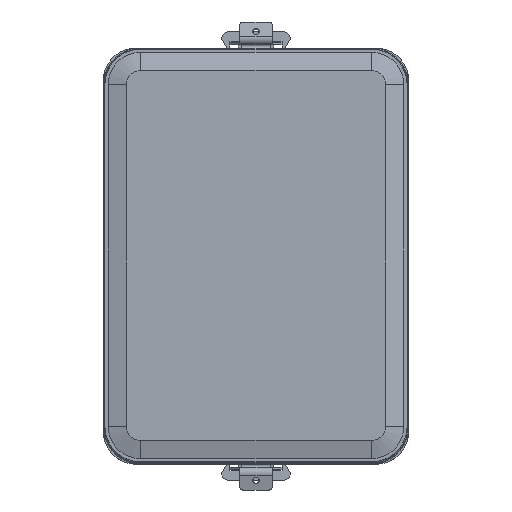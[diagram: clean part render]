
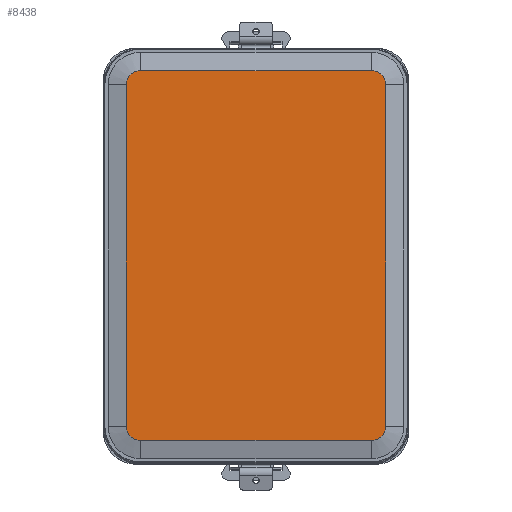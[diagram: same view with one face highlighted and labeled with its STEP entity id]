
A CAD part, top view. The second image highlights one B-rep face of the part: STEP entity #8438.
In plain terms, the highlighted planar face has unit normal (0, 0, 1).
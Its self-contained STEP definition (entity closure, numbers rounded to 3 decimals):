
#8438=ADVANCED_FACE('',(#15881),#15883,.T.);
#15881=FACE_BOUND('',#15882,.T.);
#15882=EDGE_LOOP('',(#28518,#28519,#28520,#28521,#28522,#28523,#28524,#28525));
#15883=PLANE('',#15884);
#15884=AXIS2_PLACEMENT_3D('',#15885,#15886,#15887);
#15885=CARTESIAN_POINT('',(0.,0.,127.5));
#15886=DIRECTION('',(0.,0.,1.));
#15887=DIRECTION('',(1.,0.,0.));
#28518=ORIENTED_EDGE('',*,*,#30956,.T.);
#28519=ORIENTED_EDGE('',*,*,#30954,.T.);
#28520=ORIENTED_EDGE('',*,*,#30952,.T.);
#28521=ORIENTED_EDGE('',*,*,#30950,.T.);
#28522=ORIENTED_EDGE('',*,*,#30948,.T.);
#28523=ORIENTED_EDGE('',*,*,#30946,.T.);
#28524=ORIENTED_EDGE('',*,*,#30944,.T.);
#28525=ORIENTED_EDGE('',*,*,#30941,.T.);
#30941=EDGE_CURVE('',#34775,#34776,#34777,.F.);
#30944=EDGE_CURVE('',#34780,#34775,#34781,.T.);
#30946=EDGE_CURVE('',#34783,#34780,#34784,.F.);
#30948=EDGE_CURVE('',#34786,#34783,#34787,.T.);
#30950=EDGE_CURVE('',#34789,#34786,#34790,.F.);
#30952=EDGE_CURVE('',#34792,#34789,#34793,.T.);
#30954=EDGE_CURVE('',#34795,#34792,#34796,.F.);
#30956=EDGE_CURVE('',#34776,#34795,#34798,.T.);
#34775=VERTEX_POINT('',#44540);
#34776=VERTEX_POINT('',#44541);
#34777=LINE('',#44542,#44543);
#34780=VERTEX_POINT('',#44551);
#34781=CIRCLE('',#44552,4.402);
#34783=VERTEX_POINT('',#44559);
#34784=LINE('',#44560,#44561);
#34786=VERTEX_POINT('',#44566);
#34787=CIRCLE('',#44567,4.402);
#34789=VERTEX_POINT('',#44574);
#34790=LINE('',#44575,#44576);
#34792=VERTEX_POINT('',#44581);
#34793=CIRCLE('',#44582,4.402);
#34795=VERTEX_POINT('',#44589);
#34796=LINE('',#44590,#44591);
#34798=CIRCLE('',#44596,4.402);
#44540=CARTESIAN_POINT('',(-35.5,-56.902,127.5));
#44541=CARTESIAN_POINT('',(35.5,-56.902,127.5));
#44542=CARTESIAN_POINT('',(35.5,-56.902,127.5));
#44543=VECTOR('',#44544,1.);
#44544=DIRECTION('',(-1.,0.,0.));
#44551=CARTESIAN_POINT('',(-39.902,-52.5,127.5));
#44552=AXIS2_PLACEMENT_3D('',#44553,#44554,#44555);
#44553=CARTESIAN_POINT('',(-35.5,-52.5,127.5));
#44554=DIRECTION('',(0.,-0.,1.));
#44555=DIRECTION('',(-1.,0.,0.));
#44559=CARTESIAN_POINT('',(-39.902,52.5,127.5));
#44560=CARTESIAN_POINT('',(-39.902,-52.5,127.5));
#44561=VECTOR('',#44562,1.);
#44562=DIRECTION('',(0.,1.,0.));
#44566=CARTESIAN_POINT('',(-35.5,56.902,127.5));
#44567=AXIS2_PLACEMENT_3D('',#44568,#44569,#44570);
#44568=CARTESIAN_POINT('',(-35.5,52.5,127.5));
#44569=DIRECTION('',(0.,-0.,1.));
#44570=DIRECTION('',(0.,1.,0.));
#44574=CARTESIAN_POINT('',(35.5,56.902,127.5));
#44575=CARTESIAN_POINT('',(-35.5,56.902,127.5));
#44576=VECTOR('',#44577,1.);
#44577=DIRECTION('',(1.,0.,0.));
#44581=CARTESIAN_POINT('',(39.902,52.5,127.5));
#44582=AXIS2_PLACEMENT_3D('',#44583,#44584,#44585);
#44583=CARTESIAN_POINT('',(35.5,52.5,127.5));
#44584=DIRECTION('',(-0.,0.,1.));
#44585=DIRECTION('',(1.,0.,0.));
#44589=CARTESIAN_POINT('',(39.902,-52.5,127.5));
#44590=CARTESIAN_POINT('',(39.902,52.5,127.5));
#44591=VECTOR('',#44592,1.);
#44592=DIRECTION('',(0.,-1.,0.));
#44596=AXIS2_PLACEMENT_3D('',#44597,#44598,#44599);
#44597=CARTESIAN_POINT('',(35.5,-52.5,127.5));
#44598=DIRECTION('',(-0.,0.,1.));
#44599=DIRECTION('',(0.,-1.,0.));
